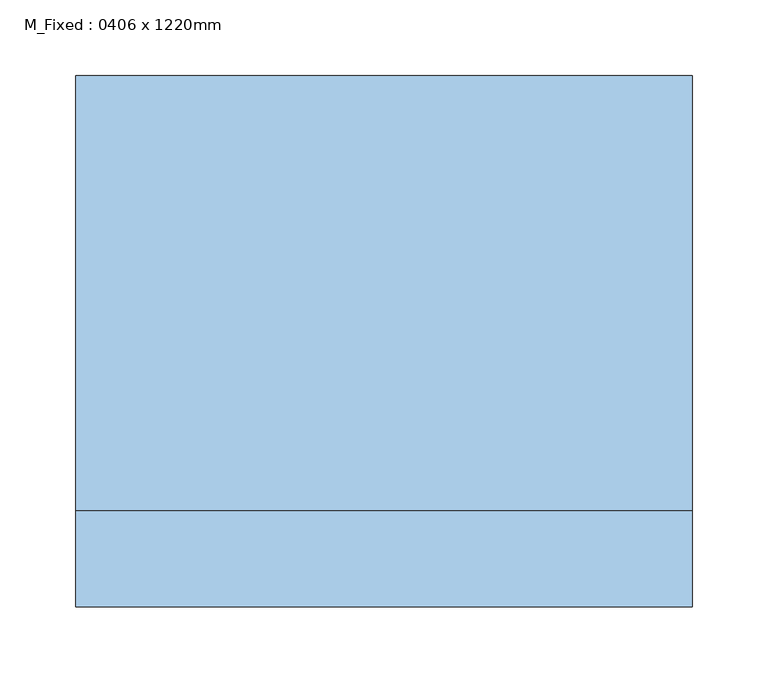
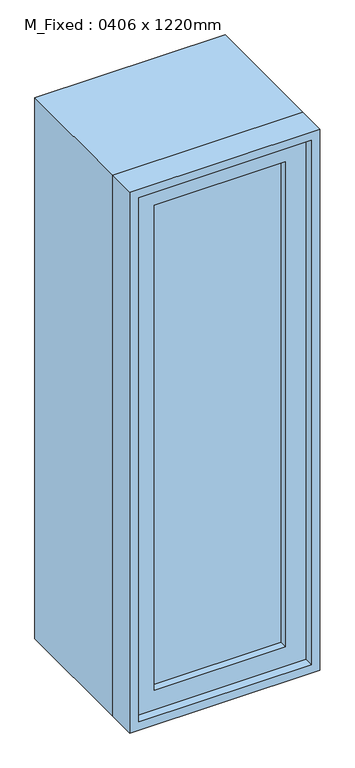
"""IFC4 building model written with IfcOpenShell, lengths in millimetres: window geometry, M_Fixed : 0406 x 1220mm."""

from ifc_helpers import new_model, si_unit, frame, origin, place, context, project, spatial, polyline, outline, extrude, source, transform, mapped, element, save


def m_fixed_0406_x_1220mm_85c28f40(model_context):
    return source(origin(), model_context, "Body", "SweptSolid", [
        extrude(outline(polyline([(-140.0, -153.0), (-140.0, -141.0), (140.0, -141.0), (140.0, -153.0), (-140.0, -153.0)])), frame((0.0, 0.0, 978.0), z_axis=(0.0, 0.0, 1.0), x_axis=(1.0, 0.0, 0.0)), (0.0, 0.0, 1.0), 1094.0),
        extrude(outline(polyline([(2116.0, -184.0), (934.0, -184.0), (934.0, 184.0), (2116.0, 184.0), (2116.0, -184.0)]), holes=[polyline([(2072.0, -140.0), (2072.0, 140.0), (978.0, 140.0), (978.0, -140.0), (2072.0, -140.0)])]), frame((0.0, -169.0, 0.0), z_axis=(0.0, 1.0, 0.0), x_axis=(0.0, 0.0, 1.0)), (0.0, 0.0, 1.0), 44.0),
        extrude(outline(polyline([(2135.0, -203.0), (915.0, -203.0), (915.0, 203.0), (2135.0, 203.0), (2135.0, -203.0)]), holes=[polyline([(2116.0, -184.0), (2116.0, 184.0), (934.0, 184.0), (934.0, -184.0), (2116.0, -184.0)])]), frame((0.0, -188.0, 0.0), z_axis=(0.0, 1.0, 0.0), x_axis=(0.0, 0.0, 1.0)), (0.0, 0.0, 1.0), 63.0),
        extrude(outline(polyline([(2135.0, -203.0), (915.0, -203.0), (915.0, 203.0), (2135.0, 203.0), (2135.0, -203.0)]), holes=[polyline([(2103.0, -171.0), (2103.0, 171.0), (947.0, 171.0), (947.0, -171.0), (2103.0, -171.0)])]), frame((0.0, -125.0, 0.0), z_axis=(0.0, 1.0, 0.0), x_axis=(0.0, 0.0, 1.0)), (0.0, 0.0, 1.0), 287.0),
    ])


if __name__ == "__main__":
    model = new_model("IFC4")
    model_context = context("Model", 3, world=origin())
    ifc_project = project(units=[si_unit("LENGTHUNIT", "METRE", prefix="MILLI")], contexts=[model_context])
    site = spatial("IfcSite", under=ifc_project)
    building = spatial("IfcBuilding", under=site)
    placement = place(None, origin())
    m_fixed_0406_x_1220mm_shape = m_fixed_0406_x_1220mm_85c28f40(model_context)
    element("IfcWindow", 1, ObjectType="M_Fixed : 0406 x 1220mm", at=placement, inside=building, context=model_context, shape_type="MappedRepresentation", body=[
        mapped(m_fixed_0406_x_1220mm_shape, transform((0.0, 0.0, 0.0), x_axis=(1.0, 0.0, 0.0), y_axis=(0.0, 1.0, 0.0), z_axis=(0.0, 0.0, 1.0))),
    ])
    save(model, "model.ifc")
